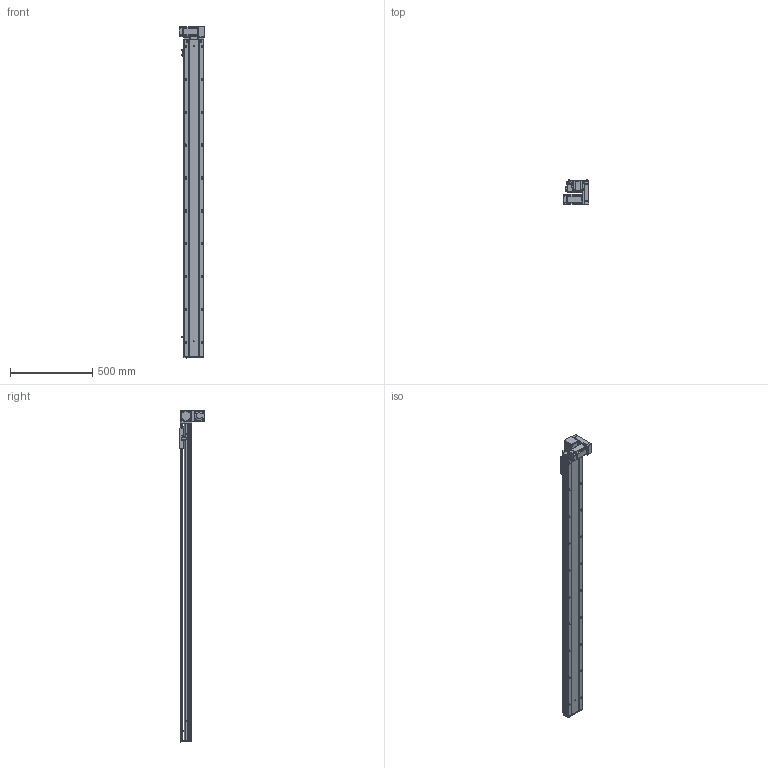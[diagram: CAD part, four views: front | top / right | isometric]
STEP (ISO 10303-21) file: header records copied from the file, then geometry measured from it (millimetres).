
FILE_DESCRIPTION (( 'STEP AP203' ), '1' );
FILE_NAME ('RY120-T-300-DR.SLDASM_1700.step', '2021-03-01T03:36:56', ( '盈信电脑' ), ( '东莞市道滘镇水果街19号' ), 'SwSTEP 2.0', 'SolidWorks 2012', '' );
FILE_SCHEMA (( 'CONFIG_CONTROL_DESIGN' ));
Length unit declared in the file: millimetre
Products named in the file (17): RY120-T-300-DR.SLDASM_1700; RY120-T主同步轮轴承压盖; RY120-T萇儂欶; RY120-T蹟翐M4; RY120-T翋肮祭謫裔啣; 15; RY120-T萇儂假蚾啣; RY120-T翋肮祭盓傅釱; RY120-T肮祭湍揤踡輸2; RY120-T肮祭湍揤踡輸1; 滅袉蝶18-10; RY120綴裔啣; 覜茼ん672; RY120肮祭湍臏賑輸; RY120外置感应片(140共用）; RY120-T-300-DR倰第菁釱_1700; RY120-T-300-DR倰第奻裔啣_1700
Assembly tree (22 placements, depth 2):
  RY120-T-300-DR.SLDASM_1700
    RY120-T-300-DR倰第菁釱_1700
    RY120-T-300-DR倰第奻裔啣_1700
    RY120肮祭湍臏賑輸
    RY120綴裔啣
    覜茼ん672  x3
    RY120外置感应片(140共用）
    RY120-T肮祭湍揤踡輸1
    RY120-T肮祭湍揤踡輸2
    RY120-T翋肮祭盓傅釱
    滅袉蝶18-10  x2
    RY120-T翋肮祭謫裔啣
    15
    RY120-T萇儂假蚾啣
    RY120-T蹟翐M4  x4
    RY120-T萇儂欶
    RY120-T主同步轮轴承压盖
Bounding box: 155.5 x 150 x 2021 mm (x, y, z)
Volume: 5149400.3 mm3; surface area: 1958056.6 mm2
Topology: 23 solids, 23 shells, 3034 faces, 8296 edges, 5294 vertices
Faces by surface type: plane 1442, cylinder 1200, cone 303, bspline 89
Entity records: 97367 total; most frequent: CARTESIAN_POINT 25304, ORIENTED_EDGE 14920, DIRECTION 14078, EDGE_CURVE 7460, VERTEX_POINT 4881, AXIS2_PLACEMENT_3D 4767, LINE 4544, VECTOR 4544
